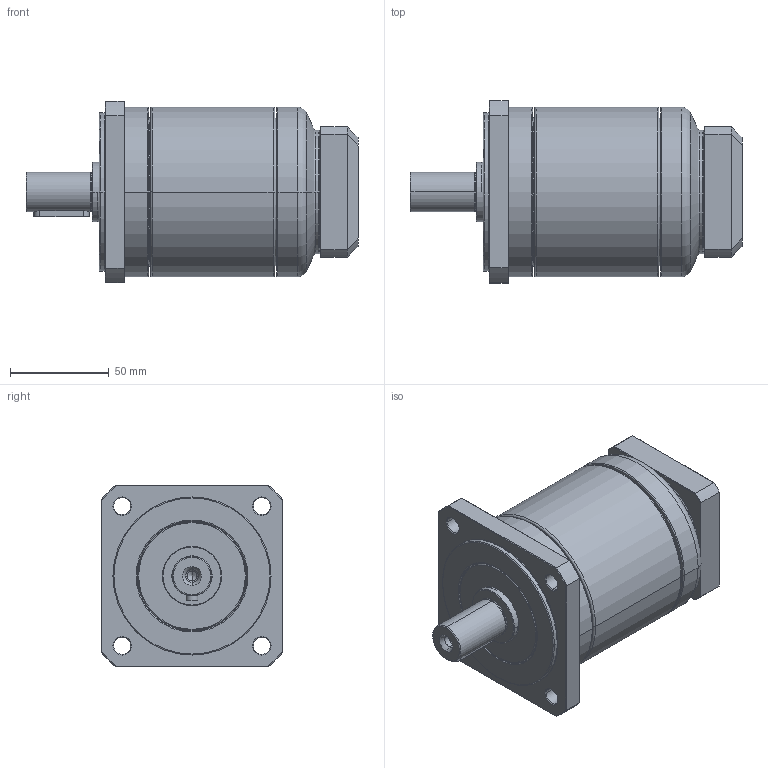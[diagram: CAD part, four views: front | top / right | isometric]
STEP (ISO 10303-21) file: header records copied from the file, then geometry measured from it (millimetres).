
FILE_DESCRIPTION((''),'2;1');
FILE_NAME('PG2-080A_2ST_14_P0411300101_ASM','2016-05-03T',('d01943'),(''),'PRO/ENGINEER BY PARAMETRIC TECHNOLOGY CORPORATION, 2008410','PRO/ENGINEER BY PARAMETRIC TECHNOLOGY CORPORATION, 2008410','');
FILE_SCHEMA(('CONFIG_CONTROL_DESIGN'));
Length unit declared in the file: millimetre
Products named in the file (9): P1326300001; P0251300001; P1324300001; P0350301103; P0941300001; P0503300005; P0411300101; P1702300001; PG2-080A_2ST_14_P0411300101_ASM
Assembly tree (8 placements, depth 2):
  PG2-080A_2ST_14_P0411300101_ASM
    P1326300001
    P0251300001
    P1324300001
    P0350301103
    P0941300001
    P0503300005
    P0411300101
    P1702300001
Bounding box: 168 x 92 x 92 mm (x, y, z)
Volume: 534594.5 mm3; surface area: 125752.7 mm2
Topology: 8 solids, 9 shells, 492 faces, 1087 edges, 628 vertices
Faces by surface type: cone 152, cylinder 141, torus 94, plane 93, bspline 12
Entity records: 17981 total; most frequent: CARTESIAN_POINT 6851, DIRECTION 2530, ORIENTED_EDGE 2118, AXIS2_PLACEMENT_3D 1081, EDGE_CURVE 1059, VERTEX_POINT 628, CIRCLE 584, EDGE_LOOP 561
